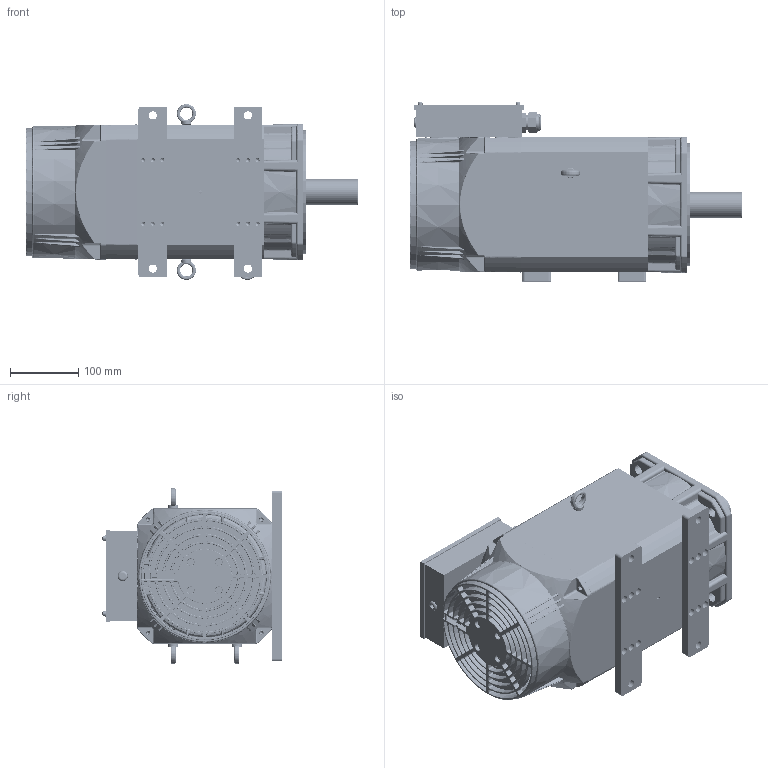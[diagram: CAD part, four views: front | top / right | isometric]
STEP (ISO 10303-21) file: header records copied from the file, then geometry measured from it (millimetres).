
FILE_DESCRIPTION (( 'STEP AP203' ), '1' );
FILE_NAME ('200M-B35-38J 俋倛芞.STEP', '2022-04-15T07:51:27', ( '' ), ( '' ), 'SwSTEP 2.0', 'SolidWorks 2016', '' );
FILE_SCHEMA (( 'CONFIG_CONTROL_DESIGN' ));
Length unit declared in the file: millimetre
Products named in the file (28): M24X1.5蹟杶; ヶ裔粣郪璃; 晤鎢ん啣; spring lock washers--normal type gb_GB_FASTENER_WASHER_SW 4; 200綴裔; 200M儂褲; 200M-B35-38J 俋倛芞; 200諉盄碟窒璃; M8X12裂遠; cross recessed cheese head screws gb_GB_CROSS_SCREWS_TYPE2 M4X10-10  H type-N; 200粣3.7kw; 200ヶ裔-171102; cross recessed pan head screws gb_GB_CROSS_SCREWS_TYPE1 M4X5-5  H type-N; 200諉盄碟裔躇猾菜; cross recessed pan head screws gb_GB_CROSS_SCREWS_TYPE1 M3X12-12  H type-N; 晤鎢ん隅砱梓ワ; 200瑤脣ヶ堤盄諉盄碟; M20X1.5蹟杶; UVW隅砱梓ワ; 接线盒风罩后盖组件; plain washers-n series-grade a gb_GB_FASTENER_WASHER_PWNA 4; 200菁褐; 200呿蹋瑞欶; 200諉盄碟裔; 200諉盄翐; 200风机过线圈; 晤鎢ん橈埽翐; M16X1.5蹟杶
Assembly tree (46 placements, depth 4):
  200M-B35-38J 俋倛芞
    200M儂褲
    ヶ裔粣郪璃
      200ヶ裔-171102
      200粣3.7kw
    接线盒风罩后盖组件
      200綴裔
      200呿蹋瑞欶
      200諉盄碟窒璃
        200瑤脣ヶ堤盄諉盄碟
        M24X1.5蹟杶
        200风机过线圈
        M20X1.5蹟杶
        M16X1.5蹟杶
        200諉盄翐
        晤鎢ん橈埽翐  x4
        晤鎢ん啣
        200諉盄碟裔躇猾菜
        200諉盄碟裔
        UVW隅砱梓ワ
        晤鎢ん隅砱梓ワ
        cross recessed cheese head screws gb_GB_CROSS_SCREWS_TYPE2 M4X10-10  H type-N  x4
        spring lock washers--normal type gb_GB_FASTENER_WASHER_SW 4  x4
        plain washers-n series-grade a gb_GB_FASTENER_WASHER_PWNA 4  x4
        cross recessed pan head screws gb_GB_CROSS_SCREWS_TYPE1 M3X12-12  H type-N  x4
        cross recessed pan head screws gb_GB_CROSS_SCREWS_TYPE1 M4X5-5  H type-N  x2
    M8X12裂遠  x3
    200菁褐  x2
Bounding box: 485.5 x 261.85 x 257 mm (x, y, z)
Volume: 3812929.7 mm3; surface area: 1397258.3 mm2
Topology: 43 solids, 43 shells, 5439 faces, 13528 edges, 8159 vertices
Faces by surface type: bspline 2052, cylinder 1329, plane 1150, cone 757, torus 139, sphere 12
Entity records: 214603 total; most frequent: CARTESIAN_POINT 103709, ORIENTED_EDGE 24990, DIRECTION 19408, EDGE_CURVE 12495, AXIS2_PLACEMENT_3D 7797, VERTEX_POINT 7581, EDGE_LOOP 5486, FACE_OUTER_BOUND 5077
